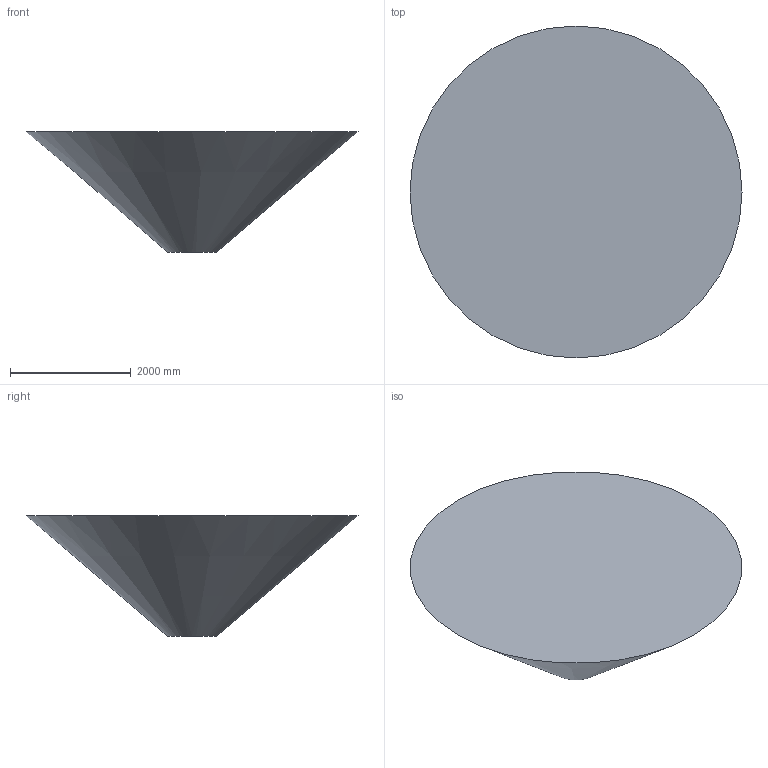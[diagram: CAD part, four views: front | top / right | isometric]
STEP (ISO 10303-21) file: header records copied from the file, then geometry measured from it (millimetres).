
FILE_DESCRIPTION(('Open CASCADE Model'),'2;1');
FILE_NAME('Open CASCADE Shape Model','2026-05-26T13:18:46',('Author'),( 'Open CASCADE'),'Open CASCADE STEP processor 7.8','build123d', 'Unknown');
FILE_SCHEMA(('AUTOMOTIVE_DESIGN { 1 0 10303 214 1 1 1 1 }'));
Length unit declared in the file: millimetre
Products named in the file (2): =>[0:1:1:2]; COMPOUND
Assembly tree (1 placements, depth 2):
  =>[0:1:1:2]
    COMPOUND
Bounding box: 5500 x 5500 x 2000 mm (x, y, z)
Volume: 18477800790.8 mm3; surface area: 54798620.6 mm2
Topology: 1 solids, 1 shells, 3 faces, 3 edges, 2 vertices
Faces by surface type: plane 2, cone 1
Entity records: 123 total; most frequent: CARTESIAN_POINT 19, DIRECTION 18, AXIS2_PLACEMENT_3D 7, ORIENTED_EDGE 6, PCURVE 6, DEFINITIONAL_REPRESENTATION 6, CIRCLE 4, PRODUCT_DEFINITION_SHAPE 3
